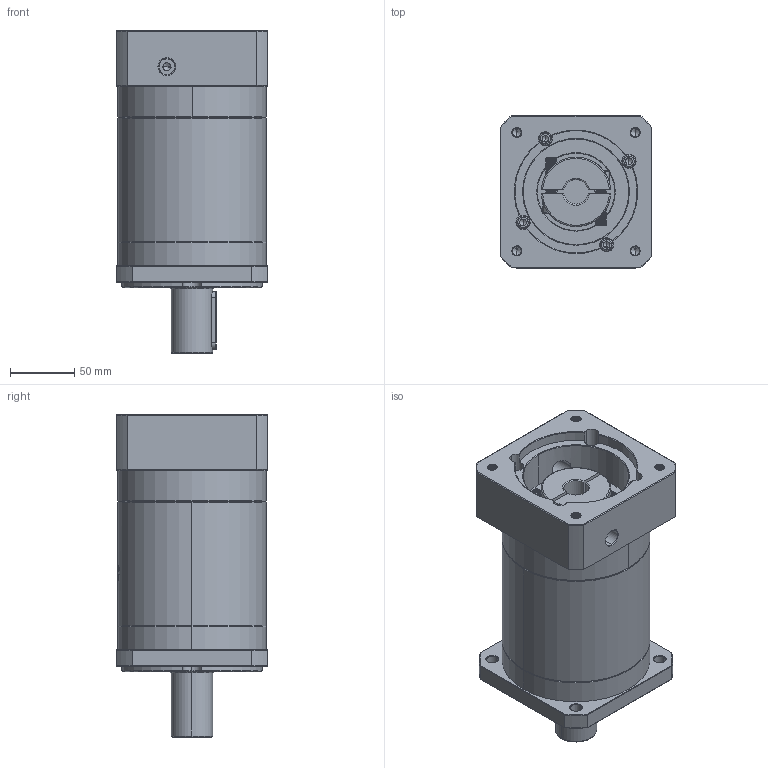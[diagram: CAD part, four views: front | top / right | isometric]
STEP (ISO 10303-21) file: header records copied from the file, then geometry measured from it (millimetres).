
FILE_DESCRIPTION (( 'STEP AP214' ), '1' );
FILE_NAME ('ZF120A-D32-L3-P2-19-95-130-M8.step', '2023-08-27T04:47:23', ( '' ), ( '' ), 'SwSTEP 2.0', 'SolidWorks 2016', '' );
FILE_SCHEMA (( 'AUTOMOTIVE_DESIGN' ));
Length unit declared in the file: millimetre
Products named in the file (1): ZF120A-D32-L3-P2-19-95-130-M8
Bounding box: 118 x 118 x 250.5 mm (x, y, z)
Volume: 2070337.7 mm3; surface area: 187589.8 mm2
Topology: 6 solids, 6 shells, 2226 faces, 5914 edges, 3789 vertices
Faces by surface type: plane 1034, cylinder 425, bspline 419, cone 328, torus 20
Entity records: 123335 total; most frequent: CARTESIAN_POINT 48961, ORIENTED_EDGE 11768, DIRECTION 8531, EDGE_CURVE 5884, VERTEX_POINT 3789, VECTOR 3099, LINE 3099, AXIS2_PLACEMENT_3D 2716
